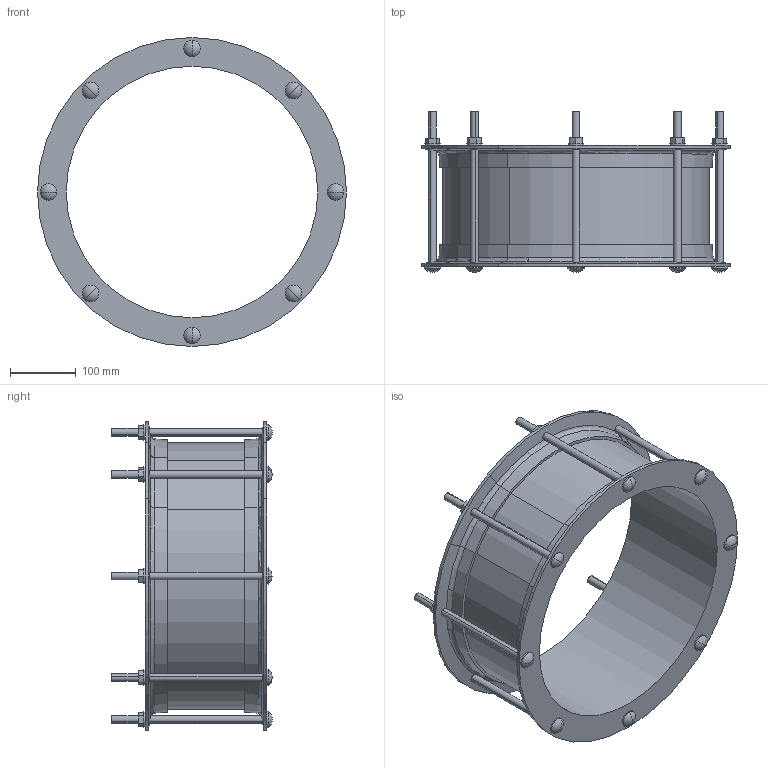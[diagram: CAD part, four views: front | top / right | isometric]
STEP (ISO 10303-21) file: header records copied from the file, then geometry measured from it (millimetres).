
FILE_DESCRIPTION((''),'2;1');
FILE_NAME('LO2_COUP_378','2018-12-05T',('mfairey'),('Glynwed Pipe Systems'),'CREO PARAMETRIC BY PTC INC, 2016130','CREO PARAMETRIC BY PTC INC, 2016130','');
FILE_SCHEMA(('CONFIG_CONTROL_DESIGN'));
Length unit declared in the file: millimetre
Products named in the file (1): LO2_COUP_378
Bounding box: 468.7 x 243.33 x 468.7 mm (x, y, z)
Volume: 3730426.7 mm3; surface area: 716993.8 mm2
Topology: 1 solids, 1 shells, 176 faces, 464 edges, 292 vertices
Faces by surface type: plane 76, cylinder 72, sphere 16, cone 8, torus 4
Entity records: 6046 total; most frequent: CARTESIAN_POINT 1684, DIRECTION 896, ORIENTED_EDGE 896, EDGE_CURVE 448, AXIS2_PLACEMENT_3D 336, VERTEX_POINT 292, VECTOR 224, LINE 224
